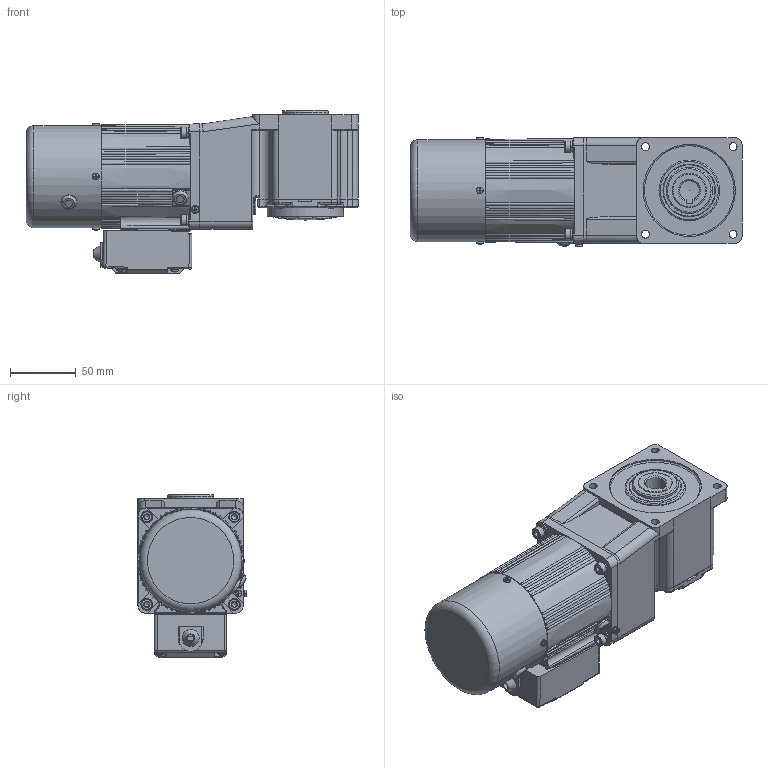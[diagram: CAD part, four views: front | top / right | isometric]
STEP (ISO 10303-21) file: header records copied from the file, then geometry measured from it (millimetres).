
FILE_DESCRIPTION(/* description */ (''),/* implementation_level */ '2;1');
FILE_NAME(/* name */ '80+中空直角-刹车-25-40W 新版标准接线盒.stp',/* time_stamp */ '2025-11-26T08:48:48+08:00',/* author */ (''),/* organization */ (''),/* preprocessor_version */ 'ST-DEVELOPER v18.102',/* originating_system */ 'SIEMENS PLM Software NX 2027',/* authorisation */ '');
FILE_SCHEMA (('AUTOMOTIVE_DESIGN { 1 0 10303 214 3 1 1 1 }'));
Products named in the file (1): 80+中空直角-刹车-25-40W 新版标准接线盒_
objects
Bounding box: 252 x 83.42 x 124.34 mm (x, y, z)
Volume: 1356498 mm3; surface area: 171181 mm2
Topology: 20 solids, 20 shells, 1761 faces, 4397 edges, 2753 vertices
Faces by surface type: plane 782, cylinder 504, bspline 174, torus 143, cone 116, sphere 42
Full cylindrical faces by diameter (mm): 2.2 x2, 2.5 x2, 2.6 x1, 2.9 x4, 3 x1, 3.2 x1, 3.5 x4, 4.2 x5, 4.4 x1, 4.8 x1, 4.826 x4, 5 x9, 5.1 x5, 5.3 x4, 5.6 x4, 6 x15, 7 x1, 8 x7, 8.2 x1, 8.5 x4, 9 x4, 10 x2, 10.5 x1, 19 x1, 25 x1, 26 x3, 35 x1, 40 x2, 40.5 x1, 46 x1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
Entity records: 58974 total; most frequent: CARTESIAN_POINT 19737, ORIENTED_EDGE 8158, DIRECTION 7607, EDGE_CURVE 4079, AXIS2_PLACEMENT_3D 2941, VERTEX_POINT 2669, EDGE_LOOP 2108, ADVANCED_FACE 1758
